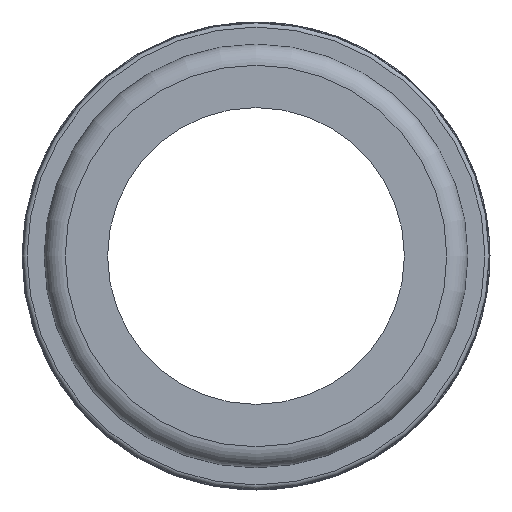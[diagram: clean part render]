
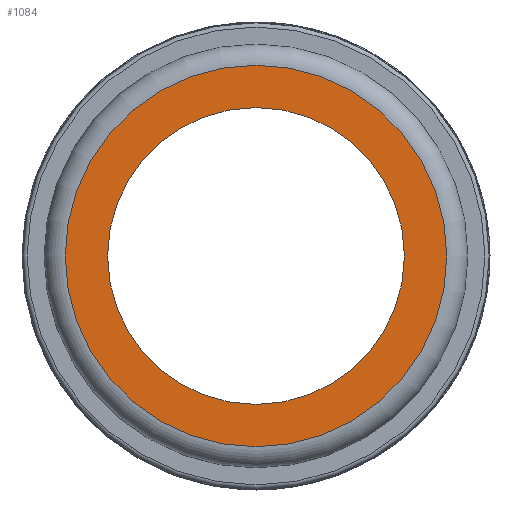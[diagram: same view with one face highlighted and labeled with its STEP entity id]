
A CAD part, left-side view. The second image highlights one B-rep face of the part: STEP entity #1084.
In plain terms, the highlighted planar face has unit normal (-1, 0, 0).
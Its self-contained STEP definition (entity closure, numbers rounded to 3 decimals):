
#185=PLANE('',#1208);
#197=FACE_BOUND('',#332,.T.);
#258=FACE_OUTER_BOUND('',#331,.T.);
#331=EDGE_LOOP('',(#1005));
#332=EDGE_LOOP('',(#1006));
#396=CIRCLE('',#1206,33.833);
#398=CIRCLE('',#1209,26.314);
#541=VERTEX_POINT('',#2200);
#543=VERTEX_POINT('',#2205);
#698=EDGE_CURVE('',#541,#541,#396,.T.);
#700=EDGE_CURVE('',#543,#543,#398,.T.);
#1005=ORIENTED_EDGE('',*,*,#698,.F.);
#1006=ORIENTED_EDGE('',*,*,#700,.T.);
#1084=ADVANCED_FACE('',(#258,#197),#185,.T.);
#1206=AXIS2_PLACEMENT_3D('',#2201,#1507,#1508);
#1208=AXIS2_PLACEMENT_3D('',#2204,#1511,#1512);
#1209=AXIS2_PLACEMENT_3D('',#2206,#1513,#1514);
#1507=DIRECTION('center_axis',(1.,0.,0.));
#1508=DIRECTION('ref_axis',(0.,-1.,0.));
#1511=DIRECTION('center_axis',(-1.,0.,0.));
#1512=DIRECTION('ref_axis',(0.,0.,1.));
#1513=DIRECTION('center_axis',(1.,0.,0.));
#1514=DIRECTION('ref_axis',(0.,0.,-1.));
#2200=CARTESIAN_POINT('',(-116.,33.833,0.));
#2201=CARTESIAN_POINT('Origin',(-116.,0.,0.));
#2204=CARTESIAN_POINT('Origin',(-116.,37.592,0.));
#2205=CARTESIAN_POINT('',(-116.,26.314,0.));
#2206=CARTESIAN_POINT('Origin',(-116.,0.,0.));
